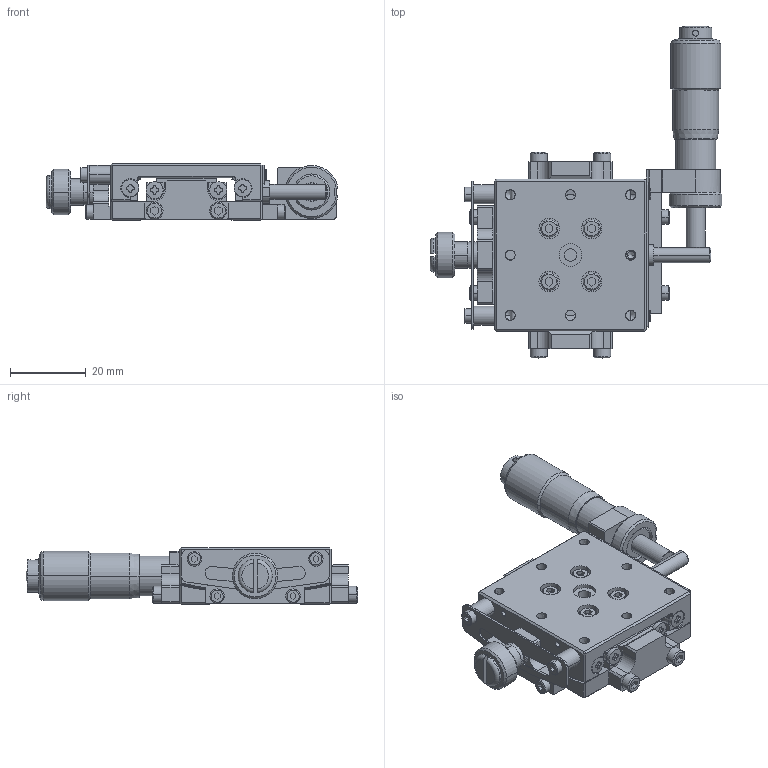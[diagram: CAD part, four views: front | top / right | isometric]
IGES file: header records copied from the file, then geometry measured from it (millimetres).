
Global section: file name: No Iges File Name specified; native system: AutoDesk Inventor R12.0; preprocessor: AutoDesk Inventor Iges Exporter R12.0; author: No Author specified; organization: No Organization specified; date: 20081126.161831; units: millimetre
Bounding box: 76.93 x 87.47 x 15 mm (x, y, z)
Volume: 27495.9 mm3; surface area: 23081.5 mm2
Topology: 2 solids, 38 shells, 1221 faces, 2952 edges, 1855 vertices
Faces by surface type: plane 564, bspline 243, cylinder 201, cone 104, revolution 94, sphere 9, torus 6
